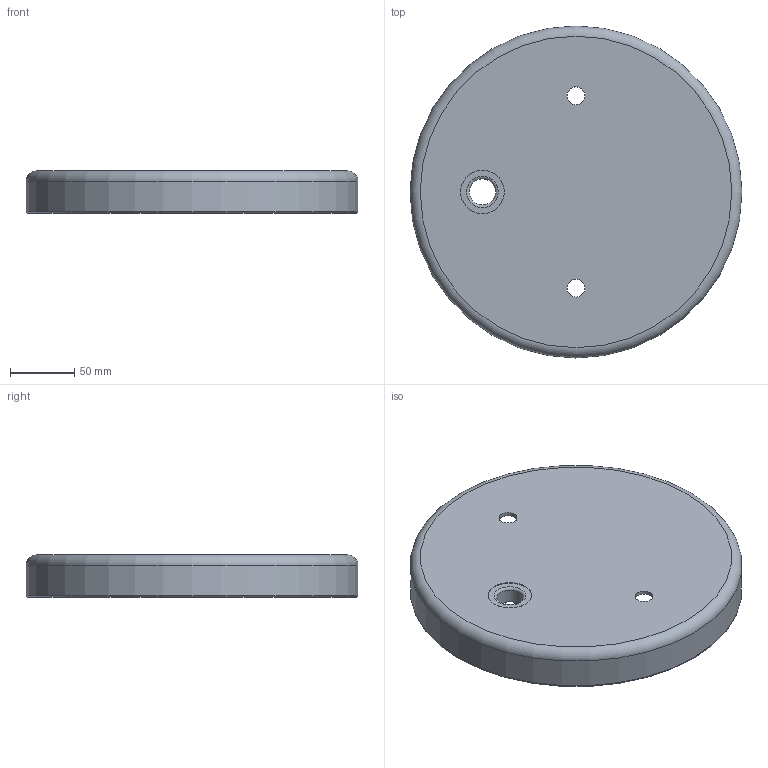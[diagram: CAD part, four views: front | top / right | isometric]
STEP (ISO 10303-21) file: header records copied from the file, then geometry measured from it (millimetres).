
FILE_DESCRIPTION(('Open CASCADE Model'),'2;1');
FILE_NAME('Open CASCADE Shape Model','2026-11-03T07:03:22',('Author'),( 'Open CASCADE'),'Open CASCADE STEP processor 7.8','Open CASCADE 7.8' ,'Unknown');
FILE_SCHEMA(('CONFIG_CONTROL_DESIGN'));
Length unit declared in the file: millimetre
Products named in the file (1): Open CASCADE STEP translator 7.8 1
Bounding box: 259 x 259 x 33 mm (x, y, z)
Volume: 222936.6 mm3; surface area: 151173.3 mm2
Topology: 1 solids, 1 shells, 16 faces, 30 edges, 18 vertices
Faces by surface type: cylinder 7, torus 5, plane 4
Full cylindrical faces by diameter (mm): 14 x2, 20.5 x1, 26.5 x1, 34 x1, 253 x1, 259 x1
Entity records: 869 total; most frequent: CARTESIAN_POINT 161, DIRECTION 141, ORIENTED_EDGE 60, PCURVE 60, DEFINITIONAL_REPRESENTATION 60, LINE 55, VECTOR 55, AXIS2_PLACEMENT_3D 40
